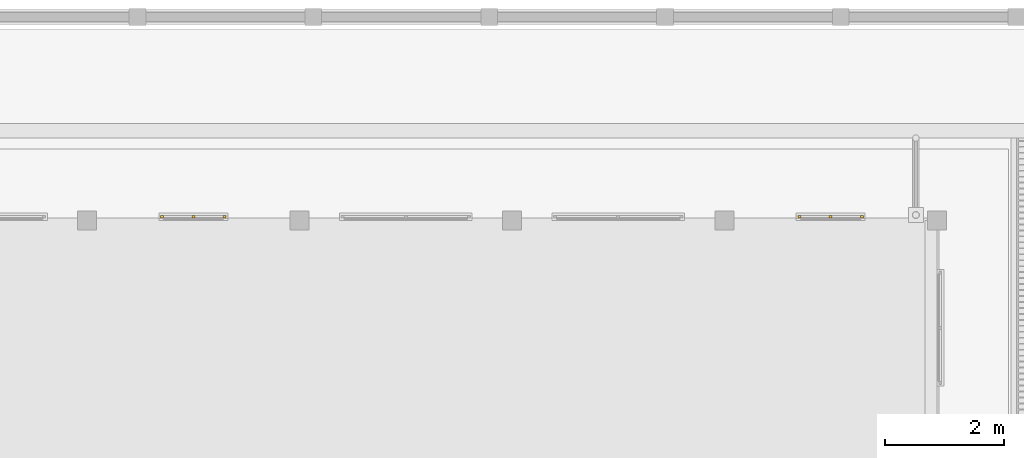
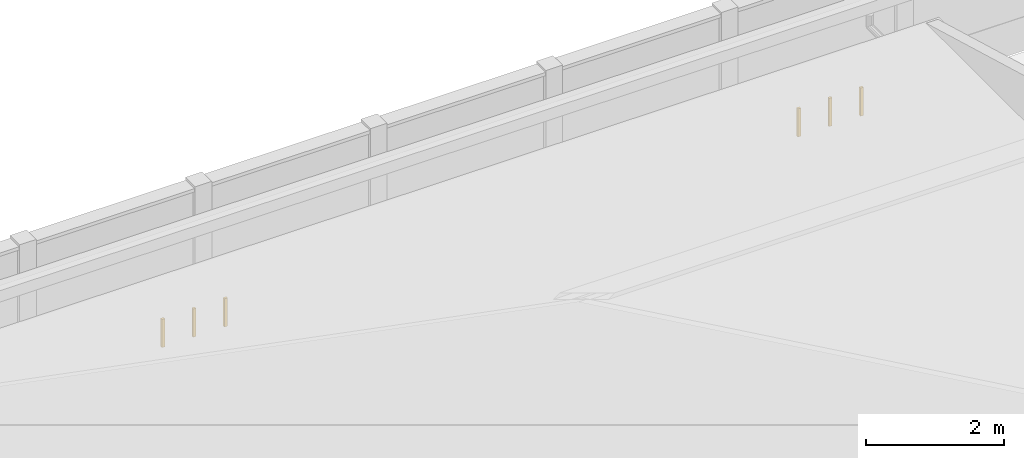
# One storey, part 84 of 166: 6 windows.
"""IFC2X3 building model written with IfcOpenShell, lengths in metres."""

from ifc_helpers import new_model, si_unit, origin, origin_with_axes, place, context, subcontext, project, spatial, faceted_brep, element, save


model = new_model("IFC2X3")

# Units and contexts
model_context = context("Model", 3, precision=1e-05, world=origin_with_axes())
body_context = subcontext(model_context, "Body", "Model", "MODEL_VIEW")
ifc_project = project(units=[si_unit("LENGTHUNIT", "METRE"), si_unit("AREAUNIT", "SQUARE_METRE"), si_unit("VOLUMEUNIT", "CUBIC_METRE"), si_unit("PLANEANGLEUNIT", "RADIAN")], contexts=[model_context])

# Site, building, storey
site_placement = place(None, origin_with_axes())
site = spatial("IfcSite", under=ifc_project, at=site_placement, Name="Predio Los Mangos - Morales, San Martín", CompositionType="ELEMENT")
building_placement = place(site_placement, origin())
building = spatial("IfcBuilding", under=site, at=building_placement, Name="Hogar de Refugio Temporal", CompositionType="ELEMENT")
storey_placement = place(building_placement, origin())
storey = spatial("IfcBuildingStorey", under=building, at=storey_placement, Name="NIVEL 1 (NPT +0.00)", CompositionType="ELEMENT", Elevation=0.0)

# Windows
window_1_placement = place(storey_placement, origin())
element("IfcWindow", 1, at=window_1_placement, inside=storey, Name="E-08_vt1_m", ObjectType="Ventana", context=body_context, shape_type="Brep", body=[
    faceted_brep([(36.79, 127.84, 2.45), (36.79, 127.88, 2.45), (36.84, 127.88, 2.45), (36.84, 127.84, 2.45), (36.79, 127.84, 2.95), (36.84, 127.84, 2.95), (36.84, 127.88, 2.95), (36.79, 127.88, 2.95)], [[[0, 1, 2, 3]], [[4, 5, 6, 7]], [[0, 3, 5, 4]], [[3, 2, 6, 5]], [[2, 1, 7, 6]], [[1, 0, 4, 7]]]),
])
window_2_placement = place(storey_placement, origin())
element("IfcWindow", 2, at=window_2_placement, inside=storey, Name="E-08_vt1_m", ObjectType="Ventana", context=body_context, shape_type="Brep", body=[
    faceted_brep([(37.84, 127.84, 2.45), (37.84, 127.88, 2.45), (37.89, 127.88, 2.45), (37.89, 127.84, 2.45), (37.84, 127.84, 2.95), (37.89, 127.84, 2.95), (37.89, 127.88, 2.95), (37.84, 127.88, 2.95)], [[[0, 1, 2, 3]], [[4, 5, 6, 7]], [[0, 3, 5, 4]], [[3, 2, 6, 5]], [[2, 1, 7, 6]], [[1, 0, 4, 7]]]),
])
window_3_placement = place(storey_placement, origin())
element("IfcWindow", 3, at=window_3_placement, inside=storey, Name="E-08_vt1_m", ObjectType="Ventana", context=body_context, shape_type="Brep", body=[
    faceted_brep([(37.315, 127.84, 2.45), (37.315, 127.88, 2.45), (37.365, 127.88, 2.45), (37.365, 127.84, 2.45), (37.315, 127.84, 2.95), (37.365, 127.84, 2.95), (37.365, 127.88, 2.95), (37.315, 127.88, 2.95)], [[[0, 1, 2, 3]], [[4, 5, 6, 7]], [[0, 3, 5, 4]], [[3, 2, 6, 5]], [[2, 1, 7, 6]], [[1, 0, 4, 7]]]),
])
window_4_placement = place(storey_placement, origin())
element("IfcWindow", 4, at=window_4_placement, inside=storey, Name="E-08_vt4_m", ObjectType="Ventana", context=body_context, shape_type="Brep", body=[
    faceted_brep([(47.47, 127.84, 2.45), (47.47, 127.88, 2.45), (47.52, 127.88, 2.45), (47.52, 127.84, 2.45), (47.47, 127.84, 2.95), (47.52, 127.84, 2.95), (47.52, 127.88, 2.95), (47.47, 127.88, 2.95)], [[[0, 1, 2, 3]], [[4, 5, 6, 7]], [[0, 3, 5, 4]], [[3, 2, 6, 5]], [[2, 1, 7, 6]], [[1, 0, 4, 7]]]),
])
window_5_placement = place(storey_placement, origin())
element("IfcWindow", 5, at=window_5_placement, inside=storey, Name="E-08_vt4_m", ObjectType="Ventana", context=body_context, shape_type="Brep", body=[
    faceted_brep([(48.52, 127.84, 2.45), (48.52, 127.88, 2.45), (48.57, 127.88, 2.45), (48.57, 127.84, 2.45), (48.52, 127.84, 2.95), (48.57, 127.84, 2.95), (48.57, 127.88, 2.95), (48.52, 127.88, 2.95)], [[[0, 1, 2, 3]], [[4, 5, 6, 7]], [[0, 3, 5, 4]], [[3, 2, 6, 5]], [[2, 1, 7, 6]], [[1, 0, 4, 7]]]),
])
window_6_placement = place(storey_placement, origin())
element("IfcWindow", 6, at=window_6_placement, inside=storey, Name="E-08_vt4_m", ObjectType="Ventana", context=body_context, shape_type="Brep", body=[
    faceted_brep([(47.995, 127.84, 2.45), (47.995, 127.88, 2.45), (48.045, 127.88, 2.45), (48.045, 127.84, 2.45), (47.995, 127.84, 2.95), (48.045, 127.84, 2.95), (48.045, 127.88, 2.95), (47.995, 127.88, 2.95)], [[[0, 1, 2, 3]], [[4, 5, 6, 7]], [[0, 3, 5, 4]], [[3, 2, 6, 5]], [[2, 1, 7, 6]], [[1, 0, 4, 7]]]),
])

save(model, "model.ifc")
